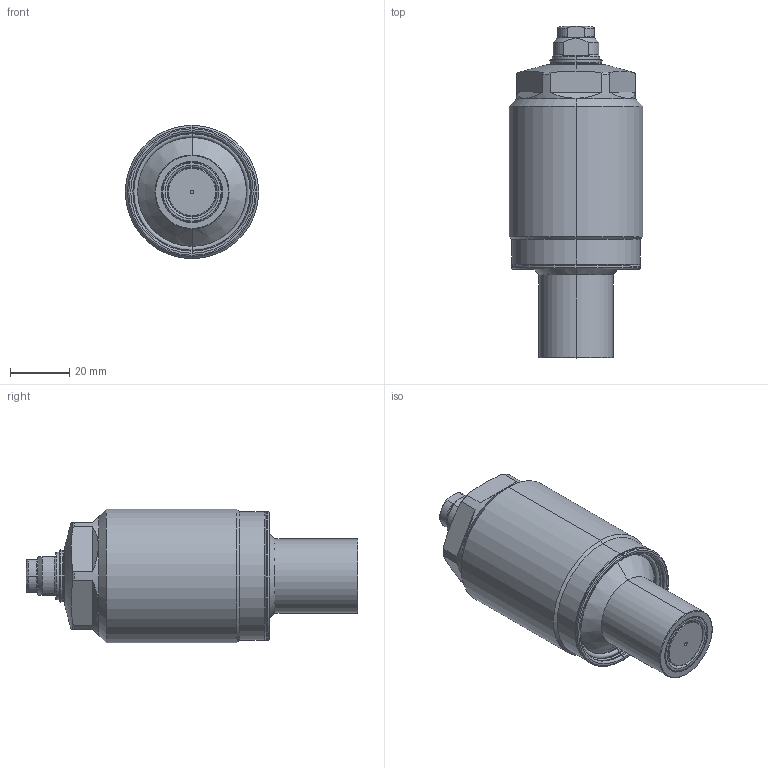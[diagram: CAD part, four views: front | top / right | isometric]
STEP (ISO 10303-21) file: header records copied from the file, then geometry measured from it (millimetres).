
FILE_DESCRIPTION(/* description */ (''),/* implementation_level */ '2;1');
FILE_NAME(/* name */ 'TSC45-Q.stp',/* time_stamp */ '2026-02-04T13:46:15+08:00',/* author */ (''),/* organization */ (''),/* preprocessor_version */ 'ST-DEVELOPER v16.7',/* originating_system */ 'SIEMENS PLM Software NX 12.0',/* authorisation */ '');
FILE_SCHEMA (('AUTOMOTIVE_DESIGN { 1 0 10303 214 3 1 1 1 }'));
Length unit declared in the file: millimetre
Products named in the file (7): XLC-M10_contactbolt; XLC-M10_Oring; TSC45-Q-01; TSC45-Q-02; AS568-030(90); TSC45-Q-03; LD0453-Q_step
Assembly tree (6 placements, depth 3):
  LD0453-Q_step
    AS568-030(90)
    TSC45-Q-03
      XLC-M10_Oring
      XLC-M10_contactbolt
    TSC45-Q-02
    TSC45-Q-01
Bounding box: 45 x 112 x 45 mm (x, y, z)
Volume: 116948.3 mm3; surface area: 20154.3 mm2
Topology: 5 solids, 5 shells, 379 faces, 790 edges, 432 vertices
Faces by surface type: cone 230, torus 64, cylinder 45, plane 38, sphere 2
Entity records: 10395 total; most frequent: CARTESIAN_POINT 2010, DIRECTION 1963, ORIENTED_EDGE 1580, AXIS2_PLACEMENT_3D 831, EDGE_CURVE 790, CIRCLE 445, VERTEX_POINT 432, EDGE_LOOP 394
